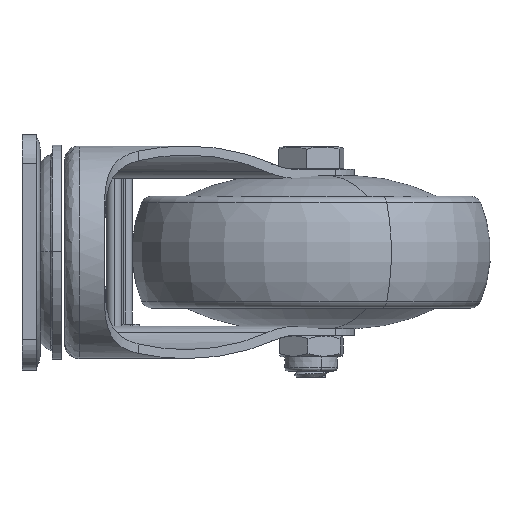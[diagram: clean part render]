
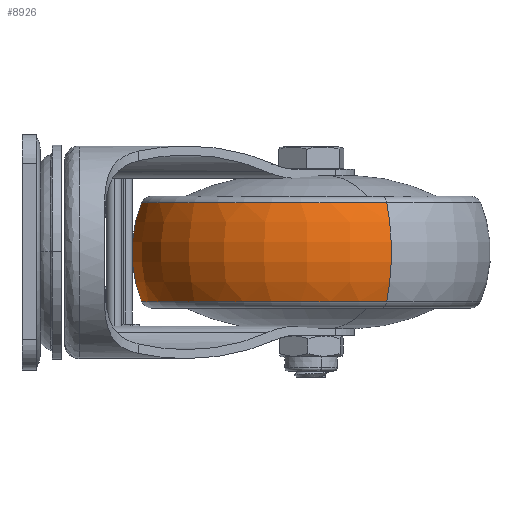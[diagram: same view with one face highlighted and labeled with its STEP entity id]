
A CAD part, left-side view. The second image highlights one B-rep face of the part: STEP entity #8926.
In plain terms, the highlighted toroidal (fillet/blend) face has major radius 16 mm and minor radius 34 mm.
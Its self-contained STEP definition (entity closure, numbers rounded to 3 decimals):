
#179 = ORIENTED_EDGE ( 'NONE', *, *, #17308, .T. ) ;
#1084 = DIRECTION ( 'NONE',  ( -1., 0., 0. ) ) ;
#1142 = AXIS2_PLACEMENT_3D ( 'NONE', #13374, #2080, #13465 ) ;
#1887 = EDGE_LOOP ( 'NONE', ( #179, #15269, #8882, #15116 ) ) ;
#2065 = DIRECTION ( 'NONE',  ( 0., 1., 0. ) ) ;
#2064 = CARTESIAN_POINT ( 'NONE',  ( 13.71, 0., 47.113 ) ) ;
#2080 = DIRECTION ( 'NONE',  ( -1., 0., 0. ) ) ;
#2438 = CARTESIAN_POINT ( 'NONE',  ( -13.71, 0., 0. ) ) ;
#2544 = CIRCLE ( 'NONE', #18056, 47.113 ) ;
#2600 = CIRCLE ( 'NONE', #4977, 47.113 ) ;
#3836 = DIRECTION ( 'NONE',  ( 0., 0., 1. ) ) ;
#4115 = CIRCLE ( 'NONE', #5620, 34. ) ;
#4242 = DIRECTION ( 'NONE',  ( 0., 0., -1. ) ) ;
#4350 = EDGE_CURVE ( 'NONE', #5792, #4974, #11545, .T. ) ;
#4432 = DIRECTION ( 'NONE',  ( 0., 0., 1. ) ) ;
#4974 = VERTEX_POINT ( 'NONE', #13008 ) ;
#4977 = AXIS2_PLACEMENT_3D ( 'NONE', #2438, #8512, #3836 ) ;
#5620 = AXIS2_PLACEMENT_3D ( 'NONE', #15632, #9966, #4242 ) ;
#5792 = VERTEX_POINT ( 'NONE', #12242 ) ;
#6361 = DIRECTION ( 'NONE',  ( 0., 0., 1. ) ) ;
#7078 = EDGE_CURVE ( 'NONE', #9293, #4974, #2600, .T. ) ;
#8231 = EDGE_CURVE ( 'NONE', #13167, #9293, #4115, .T. ) ;
#8512 = DIRECTION ( 'NONE',  ( -1., 0., 0. ) ) ;
#8564 = CARTESIAN_POINT ( 'NONE',  ( -13.71, 0., 47.113 ) ) ;
#8882 = ORIENTED_EDGE ( 'NONE', *, *, #7078, .F. ) ;
#8926 = ADVANCED_FACE ( 'NONE', ( #11700 ), #9207, .T. ) ;
#9207 = TOROIDAL_SURFACE ( 'NONE', #1142, 16., 34. ) ;
#9293 = VERTEX_POINT ( 'NONE', #8564 ) ;
#9966 = DIRECTION ( 'NONE',  ( 0., -1., 0. ) ) ;
#11545 = CIRCLE ( 'NONE', #12749, 34. ) ;
#11700 = FACE_OUTER_BOUND ( 'NONE', #1887, .T. ) ;
#12242 = CARTESIAN_POINT ( 'NONE',  ( 13.71, 0., -47.113 ) ) ;
#12749 = AXIS2_PLACEMENT_3D ( 'NONE', #14832, #2065, #6361 ) ;
#13008 = CARTESIAN_POINT ( 'NONE',  ( -13.71, 0., -47.113 ) ) ;
#13167 = VERTEX_POINT ( 'NONE', #2064 ) ;
#13374 = CARTESIAN_POINT ( 'NONE',  ( 0., 0., 0. ) ) ;
#13465 = DIRECTION ( 'NONE',  ( 0., 0., 1. ) ) ;
#13783 = CARTESIAN_POINT ( 'NONE',  ( 13.71, 0., 0. ) ) ;
#14832 = CARTESIAN_POINT ( 'NONE',  ( 0., 0., -16. ) ) ;
#15116 = ORIENTED_EDGE ( 'NONE', *, *, #8231, .F. ) ;
#15269 = ORIENTED_EDGE ( 'NONE', *, *, #4350, .T. ) ;
#15632 = CARTESIAN_POINT ( 'NONE',  ( 0., 0., 16. ) ) ;
#17308 = EDGE_CURVE ( 'NONE', #13167, #5792, #2544, .T. ) ;
#18056 = AXIS2_PLACEMENT_3D ( 'NONE', #13783, #1084, #4432 ) ;
